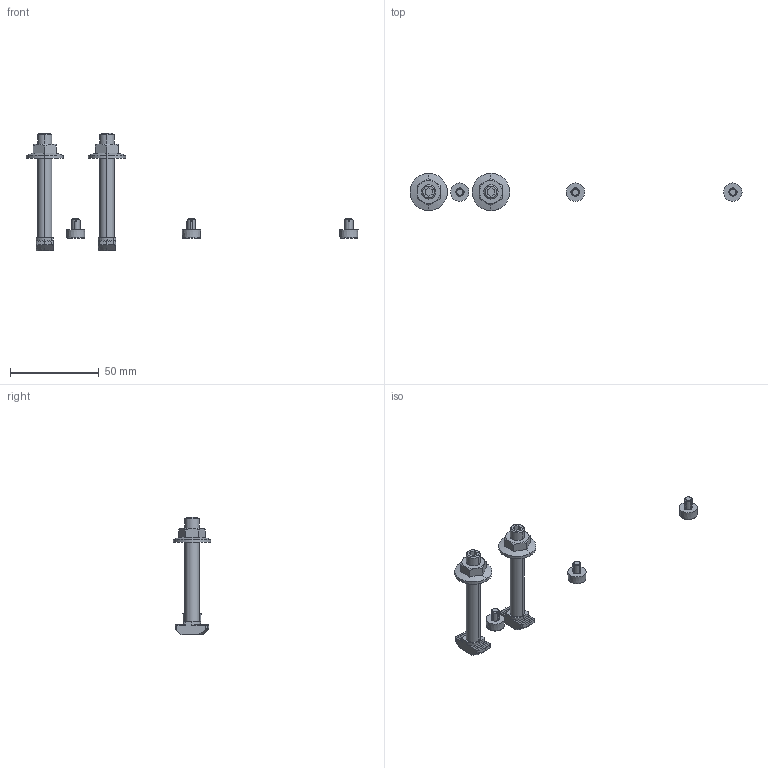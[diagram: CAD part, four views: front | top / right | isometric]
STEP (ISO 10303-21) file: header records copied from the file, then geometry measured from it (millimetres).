
FILE_DESCRIPTION (( 'STEP AP203' ), '1' );
FILE_NAME ('75000030.STEP', '2016-11-22T09:31:55', ( '' ), ( '' ), 'SwSTEP 2.0', 'SolidWorks 2015', '' );
FILE_SCHEMA (( 'CONFIG_CONTROL_DESIGN' ));
Length unit declared in the file: millimetre
Products named in the file (1): 75000030
Bounding box: 186.65 x 21 x 65.8 mm (x, y, z)
Volume: 11705.4 mm3; surface area: 7110.7 mm2
Topology: 5 solids, 5 shells, 244 faces, 628 edges, 399 vertices
Faces by surface type: plane 129, cylinder 53, cone 34, sphere 22, torus 6
Entity records: 7554 total; most frequent: CARTESIAN_POINT 1820, ORIENTED_EDGE 1232, DIRECTION 1147, EDGE_CURVE 616, AXIS2_PLACEMENT_3D 420, VERTEX_POINT 393, LINE 307, VECTOR 307
